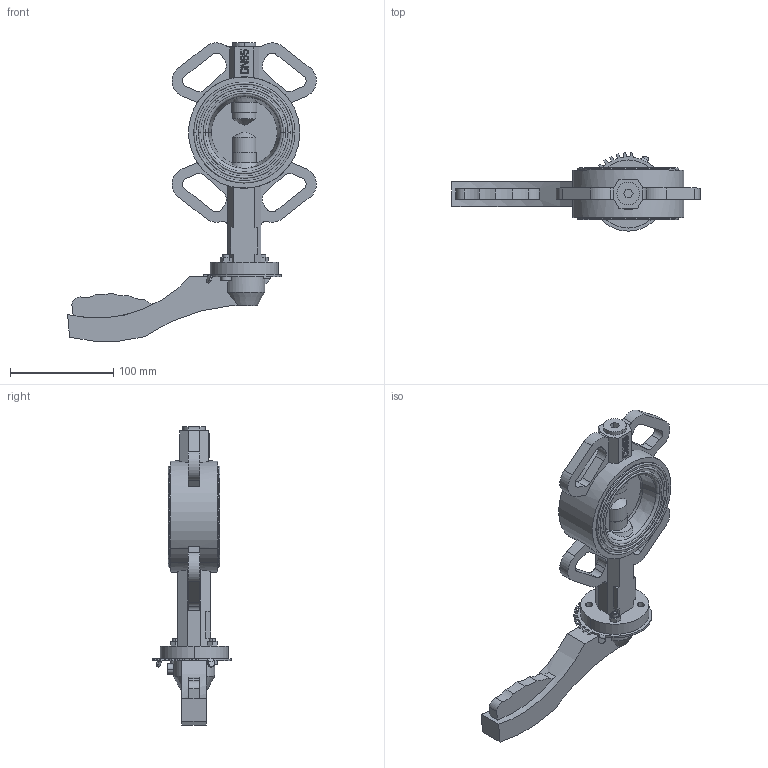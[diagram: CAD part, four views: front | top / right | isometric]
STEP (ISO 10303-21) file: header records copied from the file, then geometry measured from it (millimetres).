
FILE_DESCRIPTION((''),'2;1');
FILE_NAME('SB_RUCHKA_ASM','2023-12-23T',('DIMA'),(''),'PRO/ENGINEER BY PARAMETRIC TECHNOLOGY CORPORATION, 2008020','PRO/ENGINEER BY PARAMETRIC TECHNOLOGY CORPORATION, 2008020','');
FILE_SCHEMA(('CONFIG_CONTROL_DESIGN'));
Length unit declared in the file: millimetre
Products named in the file (19): KORPUS; REZ; DISK; SHTIR_1; ZAGLUSHKA; O-RING; SHTIR_2; SHAIBA_RAZREZ; SHAIBA; KOLCO_22_GOST13943; VTULKA; MANZET_REZ; SB_ASM; PLASTINA; RUCHKA; V-11738-M6X20; G-5915-M6; V-11738-M6X16; SB_RUCHKA_ASM
Assembly tree (26 placements, depth 3):
  SB_RUCHKA_ASM
    SB_ASM
      KORPUS
      REZ
      DISK
      SHTIR_1
      ZAGLUSHKA
      O-RING  x2
      SHTIR_2
      SHAIBA_RAZREZ
      SHAIBA  x2
      KOLCO_22_GOST13943
      VTULKA  x5
      MANZET_REZ
    PLASTINA
    RUCHKA
    V-11738-M6X20  x2
    G-5915-M6  x2
    V-11738-M6X16
Bounding box: 241.36 x 75.93 x 289.36 mm (x, y, z)
Volume: 632257.6 mm3; surface area: 197161.5 mm2
Topology: 25 solids, 32 shells, 733 faces, 1885 edges, 1238 vertices
Faces by surface type: plane 419, cylinder 227, cone 55, torus 28, bspline 4
Entity records: 21717 total; most frequent: CARTESIAN_POINT 4378, DIRECTION 3667, ORIENTED_EDGE 3440, EDGE_CURVE 1733, AXIS2_PLACEMENT_3D 1277, VERTEX_POINT 1140, VECTOR 1113, LINE 1113
